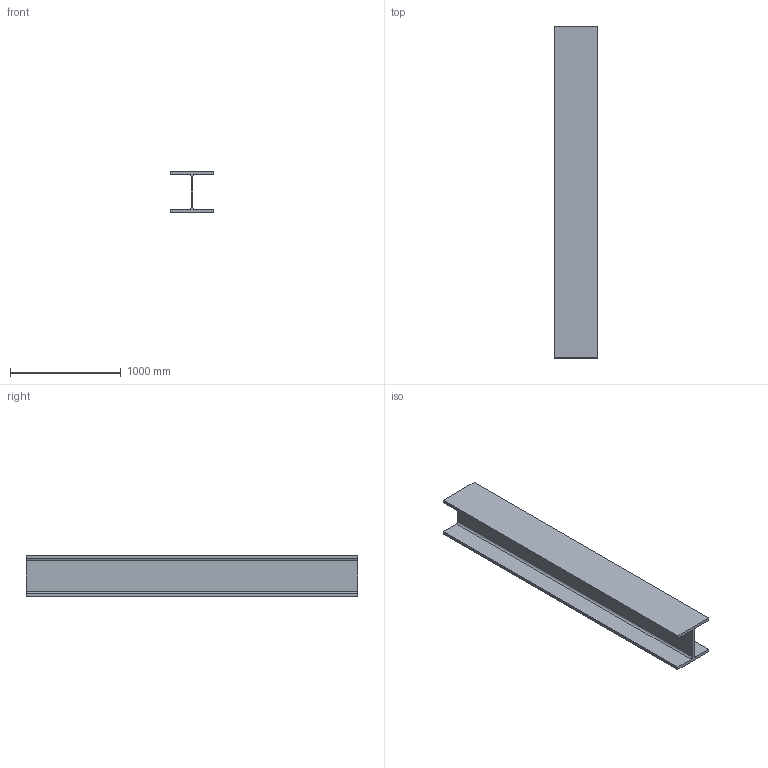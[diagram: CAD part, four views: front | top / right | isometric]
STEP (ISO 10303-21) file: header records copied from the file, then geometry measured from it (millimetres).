
FILE_DESCRIPTION(/* description */ ('VariCAD 2008 3.01 AP-203'),/* implementation_level */ '2;1');
FILE_NAME(/* name */ '2d-beam-H-beam2',/* time_stamp */ '2009-01-18T23:28:53+01:00',/* author */ (''),/* organization */ (''),/* preprocessor_version */ 'ST-DEVELOPER v12',/* originating_system */ 'VariCAD 2008 3.01; kernel version (20080715)',/* authorisation */ '');
FILE_SCHEMA (('CONFIG_CONTROL_DESIGN'));
Length unit declared in the file: millimetre
Products named in the file (1): Part
Bounding box: 394 x 3000 x 375 mm (x, y, z)
Volume: 83100128.8 mm3; surface area: 6826591.2 mm2
Topology: 1 solids, 1 shells, 18 faces, 48 edges, 32 vertices
Faces by surface type: plane 14, cylinder 4
Entity records: 606 total; most frequent: CARTESIAN_POINT 100, ORIENTED_EDGE 96, DIRECTION 96, EDGE_CURVE 48, LINE 40, VECTOR 40, VERTEX_POINT 32, AXIS2_PLACEMENT_3D 28
